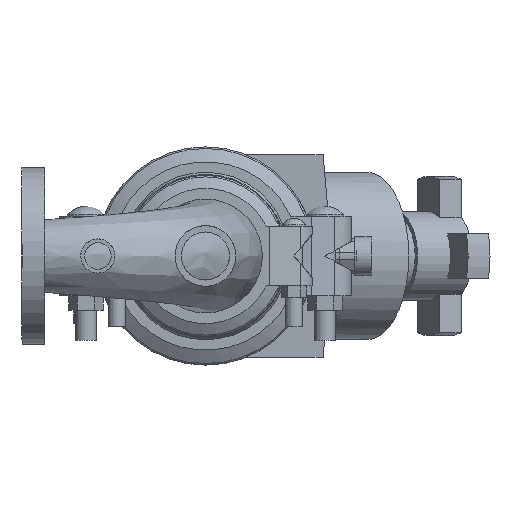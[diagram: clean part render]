
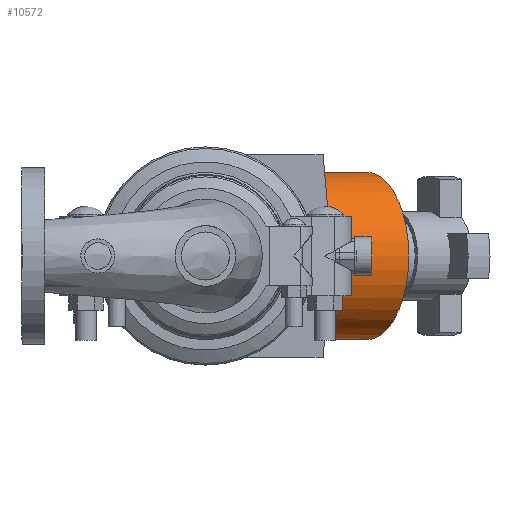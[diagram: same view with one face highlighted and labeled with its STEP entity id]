
A CAD part, front view. The second image highlights one B-rep face of the part: STEP entity #10572.
In plain terms, the highlighted cylindrical face has radius 84.138 mm (diameter 168.275 mm), a full revolution.
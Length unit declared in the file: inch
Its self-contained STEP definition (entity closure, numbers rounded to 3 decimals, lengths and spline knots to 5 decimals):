
#271=ELLIPSE('',#11620,6.625,3.3125);
#272=ELLIPSE('',#11621,3.82495,3.3125);
#273=ELLIPSE('',#11624,3.82495,3.3125);
#274=ELLIPSE('',#11625,6.625,3.3125);
#692=LINE('',#17612,#1464);
#1464=VECTOR('',#13762,3.3125);
#1966=CYLINDRICAL_SURFACE('',#11656,3.3125);
#2433=FACE_OUTER_BOUND('',#3043,.T.);
#3043=EDGE_LOOP('',(#7822,#7823,#7824,#7825,#7826,#7827,#7828,#7829));
#3598=CIRCLE('',#11580,3.3125);
#3599=CIRCLE('',#11581,3.3125);
#4349=VERTEX_POINT('',#17432);
#4350=VERTEX_POINT('',#17433);
#4390=VERTEX_POINT('',#17546);
#4391=VERTEX_POINT('',#17548);
#4392=VERTEX_POINT('',#17550);
#4395=VERTEX_POINT('',#17557);
#5555=EDGE_CURVE('',#4349,#4350,#3598,.T.);
#5556=EDGE_CURVE('',#4350,#4349,#3599,.T.);
#5612=EDGE_CURVE('',#4390,#4391,#271,.T.);
#5613=EDGE_CURVE('',#4391,#4392,#272,.T.);
#5617=EDGE_CURVE('',#4392,#4395,#273,.T.);
#5618=EDGE_CURVE('',#4395,#4390,#274,.T.);
#5642=EDGE_CURVE('',#4390,#4350,#692,.T.);
#7822=ORIENTED_EDGE('',*,*,#5613,.F.);
#7823=ORIENTED_EDGE('',*,*,#5612,.F.);
#7824=ORIENTED_EDGE('',*,*,#5642,.T.);
#7825=ORIENTED_EDGE('',*,*,#5556,.T.);
#7826=ORIENTED_EDGE('',*,*,#5555,.T.);
#7827=ORIENTED_EDGE('',*,*,#5642,.F.);
#7828=ORIENTED_EDGE('',*,*,#5618,.F.);
#7829=ORIENTED_EDGE('',*,*,#5617,.F.);
#10572=ADVANCED_FACE('',(#2433),#1966,.T.);
#11580=AXIS2_PLACEMENT_3D('',#17434,#13568,#13569);
#11581=AXIS2_PLACEMENT_3D('',#17435,#13570,#13571);
#11620=AXIS2_PLACEMENT_3D('',#17549,#13682,#13683);
#11621=AXIS2_PLACEMENT_3D('',#17551,#13684,#13685);
#11624=AXIS2_PLACEMENT_3D('',#17558,#13691,#13692);
#11625=AXIS2_PLACEMENT_3D('',#17559,#13693,#13694);
#11656=AXIS2_PLACEMENT_3D('',#17611,#13760,#13761);
#13568=DIRECTION('center_axis',(-0.5,0.866,0.));
#13569=DIRECTION('ref_axis',(-0.866,-0.5,0.));
#13570=DIRECTION('center_axis',(-0.5,0.866,0.));
#13571=DIRECTION('ref_axis',(-0.866,-0.5,0.));
#13682=DIRECTION('center_axis',(0.5,0.866,0.));
#13683=DIRECTION('ref_axis',(-0.866,0.5,0.));
#13684=DIRECTION('center_axis',(-0.866,0.5,0.));
#13685=DIRECTION('ref_axis',(-0.5,-0.866,0.));
#13691=DIRECTION('center_axis',(-0.866,0.5,0.));
#13692=DIRECTION('ref_axis',(-0.5,-0.866,0.));
#13693=DIRECTION('center_axis',(0.5,0.866,0.));
#13694=DIRECTION('ref_axis',(-0.866,0.5,0.));
#13760=DIRECTION('center_axis',(-0.5,0.866,0.));
#13761=DIRECTION('ref_axis',(-0.866,-0.5,0.));
#13762=DIRECTION('',(0.5,-0.866,0.));
#17432=CARTESIAN_POINT('',(-2.76871,-8.04035,0.));
#17433=CARTESIAN_POINT('',(2.96871,-4.72785,0.));
#17434=CARTESIAN_POINT('Origin',(0.1,-6.3841,0.));
#17435=CARTESIAN_POINT('Origin',(0.1,-6.3841,0.));
#17546=CARTESIAN_POINT('',(2.15155,-3.3125,0.));
#17548=CARTESIAN_POINT('',(-3.58586,0.,-3.3125));
#17549=CARTESIAN_POINT('Origin',(-3.58586,0.,
0.));
#17550=CARTESIAN_POINT('',(-5.49834,-3.3125,0.));
#17551=CARTESIAN_POINT('Origin',(-3.58586,0.,
0.));
#17557=CARTESIAN_POINT('',(-3.58586,0.,3.3125));
#17558=CARTESIAN_POINT('Origin',(-3.58586,0.,
0.));
#17559=CARTESIAN_POINT('Origin',(-3.58586,0.,
0.));
#17611=CARTESIAN_POINT('Origin',(0.25,-6.64391,0.));
#17612=CARTESIAN_POINT('',(3.11871,-4.98766,0.));
